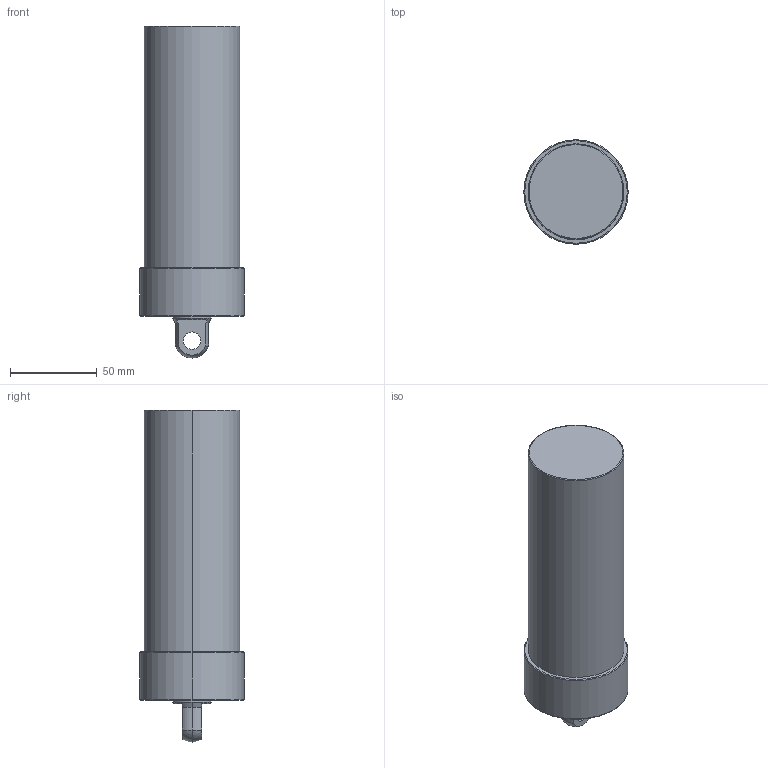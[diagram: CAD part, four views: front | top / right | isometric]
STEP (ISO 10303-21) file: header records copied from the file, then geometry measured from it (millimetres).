
FILE_DESCRIPTION (( 'STEP AP203' ), '1' );
FILE_NAME ('CLLU-055GP-110.STEP', '2020-01-06T07:43:43', ( '' ), ( '' ), 'SwSTEP 2.0', 'SolidWorks 2015', '' );
FILE_SCHEMA (( 'CONFIG_CONTROL_DESIGN' ));
Length unit declared in the file: millimetre
Products named in the file (1): CLLU-055GP-110
Bounding box: 60 x 60 x 191 mm (x, y, z)
Volume: 411637.7 mm3; surface area: 37271.2 mm2
Topology: 1 solids, 1 shells, 58 faces, 131 edges, 75 vertices
Faces by surface type: cylinder 23, cone 18, plane 9, torus 6, sphere 2
Entity records: 1658 total; most frequent: DIRECTION 311, CARTESIAN_POINT 269, ORIENTED_EDGE 246, AXIS2_PLACEMENT_3D 133, EDGE_CURVE 123, VERTEX_POINT 75, CIRCLE 74, EDGE_LOOP 68
